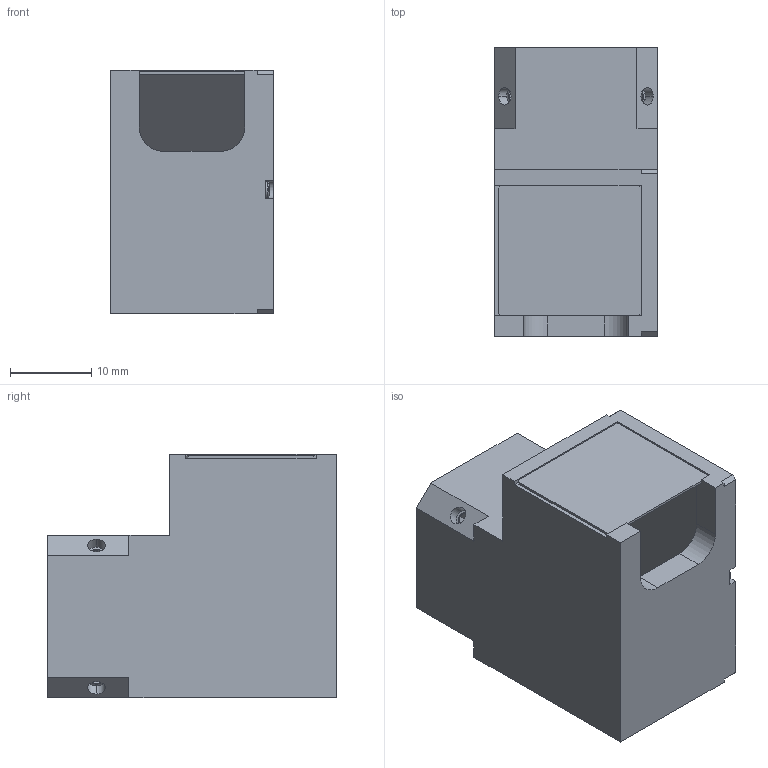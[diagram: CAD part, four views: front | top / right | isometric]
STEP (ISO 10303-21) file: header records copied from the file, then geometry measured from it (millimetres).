
FILE_DESCRIPTION (( 'STEP AP214' ), '1' );
FILE_NAME ('MML-PP16.STEP', '2026-02-24T00:48:27', ( '' ), ( '' ), 'SwSTEP 2.0', 'SolidWorks 2025', '' );
FILE_SCHEMA (( 'AUTOMOTIVE_DESIGN' ));
Length unit declared in the file: millimetre
Products named in the file (1): MML-PP16
Bounding box: 20 x 35.5 x 30 mm (x, y, z)
Volume: 10281.9 mm3; surface area: 7006.5 mm2
Topology: 1 solids, 7 shells, 325 faces, 821 edges, 514 vertices
Faces by surface type: plane 192, cone 68, cylinder 47, torus 12, sphere 6
Entity records: 9988 total; most frequent: CARTESIAN_POINT 2247, ORIENTED_EDGE 1618, DIRECTION 1613, EDGE_CURVE 809, AXIS2_PLACEMENT_3D 604, VERTEX_POINT 514, VECTOR 405, LINE 405
